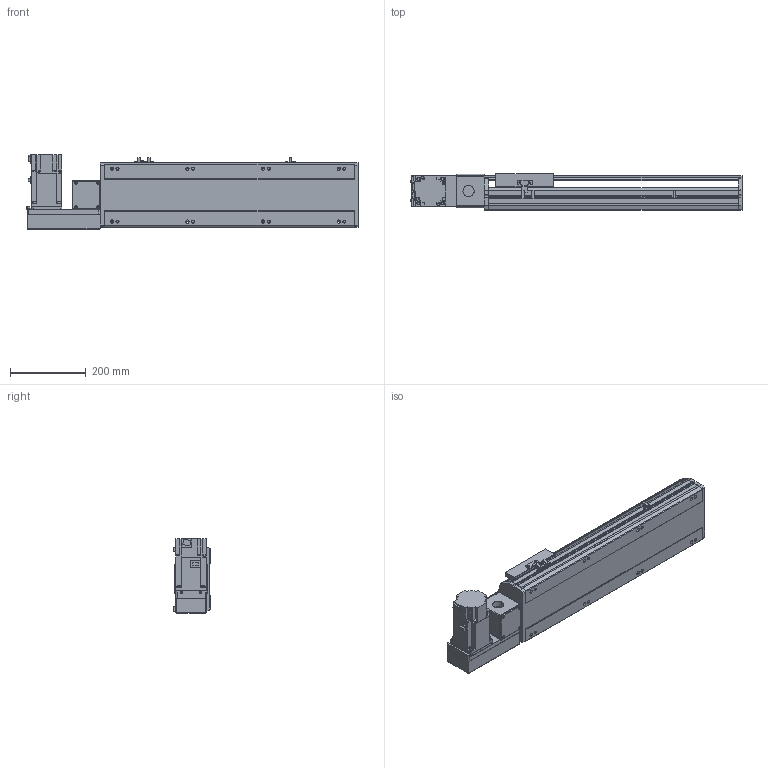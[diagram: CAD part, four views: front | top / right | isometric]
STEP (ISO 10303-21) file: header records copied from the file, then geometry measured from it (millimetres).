
FILE_DESCRIPTION( ( 'STEP AP214' ), '1' );
FILE_NAME( 'x:/temp/worker_4/temp/exporttempdir_2248_194_RcZgm/format_0/PBS170-P40-S400-L-T75-C1-N(0).stp', '2022-06-07T06:33:51', ( 'License CC BY-ND 4.0' ), ( 'CADENAS' ), ' ', 'PARTsolutions', ' ' );
FILE_SCHEMA( ( 'AUTOMOTIVE_DESIGN { 1 0 10303 214 1 1 1 1 }' ) );
Length unit declared in the file: millimetre
Products named in the file (7): PBS170-P40-S400-L-T75-C1-N(0); _PBS170-S400()_body; _PBS170T-L_motors; _T75-p1; _PBS170_sliser; _PBS170_plant; _PBS170_sensor
Assembly tree (8 placements, depth 2):
  PBS170-P40-S400-L-T75-C1-N(0)
    _PBS170-S400()_body
    _PBS170T-L_motors
    _T75-p1
    _PBS170_sliser
    _PBS170_plant
    _PBS170_sensor  x3
Bounding box: 878 x 97 x 197.3 mm (x, y, z)
Volume: 6717486 mm3; surface area: 923495.1 mm2
Topology: 8 solids, 8 shells, 1018 faces, 2715 edges, 1770 vertices
Faces by surface type: plane 663, cylinder 307, cone 38, sphere 8, torus 2
Full cylindrical faces by diameter (mm): 3.242 x4, 4 x2, 4.4 x4, 4.5 x6, 4.917 x4, 6 x9, 6.647 x16, 7 x2, 7.5 x4, 8 x8, 8.5 x8, 10 x4, 10.5 x8, 11 x2, 30 x2, 40 x1, 70 x1
Entity records: 37172 total; most frequent: CARTESIAN_POINT 5549, DIRECTION 5020, ORIENTED_EDGE 4788, EDGE_CURVE 2394, AXIS2_PLACEMENT_3D 1717, VERTEX_POINT 1634, LINE 1586, VECTOR 1586
